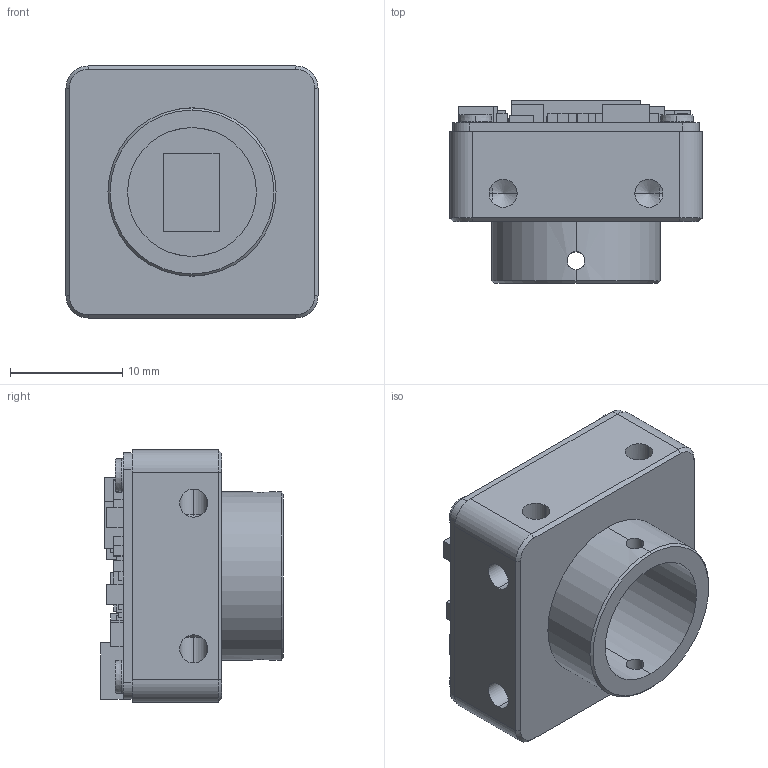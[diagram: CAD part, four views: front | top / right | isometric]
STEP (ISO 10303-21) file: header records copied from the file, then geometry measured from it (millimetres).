
FILE_DESCRIPTION (( 'STEP AP214' ), '1' );
FILE_NAME ('S260001-000.STEP', '2026-05-19T02:58:53', ( '' ), ( '' ), 'SwSTEP 2.0', 'SolidWorks 2022', '' );
FILE_SCHEMA (( 'AUTOMOTIVE_DESIGN' ));
Length unit declared in the file: millimetre
Products named in the file (4): GB_CROSS_SCREWS_TYPE135 M2X5-N_GB_CROSS_SCREWS_TYPE135 M2X5-N; S210011-001-XD; S260001-000; SS233-02
Assembly tree (6 placements, depth 2):
  S260001-000
    S210011-001-XD
    SS233-02
    GB_CROSS_SCREWS_TYPE135 M2X5-N_GB_CROSS_SCREWS_TYPE135 M2X5-N  x4
Bounding box: 22.5 x 16.3 x 22.5 mm (x, y, z)
Volume: 3221.6 mm3; surface area: 4657.4 mm2
Topology: 54 solids, 54 shells, 550 faces, 1280 edges, 834 vertices
Faces by surface type: plane 384, cylinder 112, cone 46, torus 8
Entity records: 17404 total; most frequent: CARTESIAN_POINT 2449, DIRECTION 2158, ORIENTED_EDGE 2108, EDGE_CURVE 1054, VECTOR 804, LINE 804, VERTEX_POINT 696, AXIS2_PLACEMENT_3D 677
